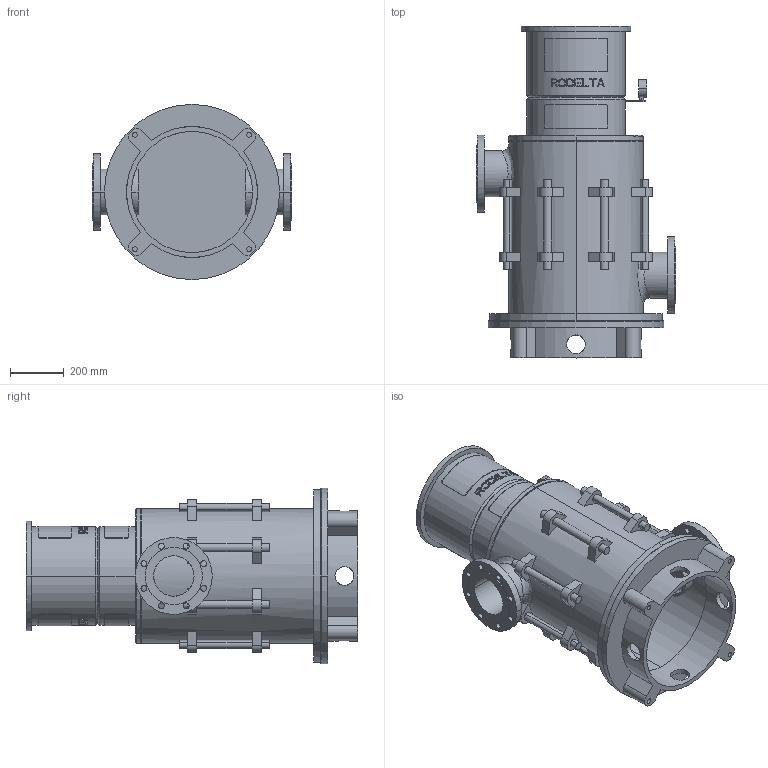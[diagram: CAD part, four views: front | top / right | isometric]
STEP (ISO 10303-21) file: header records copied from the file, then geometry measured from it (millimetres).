
FILE_DESCRIPTION((''),'2;1');
FILE_NAME('LS6_2TR_0GR_TOT_30KW','2023-08-15T',('Lyritlocal'),(''),'PRO/ENGINEER BY PARAMETRIC TECHNOLOGY CORPORATION, 2016360','PRO/ENGINEER BY PARAMETRIC TECHNOLOGY CORPORATION, 2016360','');
FILE_SCHEMA(('CONFIG_CONTROL_DESIGN'));
Length unit declared in the file: millimetre
Products named in the file (1): LS6_2TR_0GR_TOT_30KW
Bounding box: 740 x 1231 x 650 mm (x, y, z)
Volume: 40270217 mm3; surface area: 5291323.5 mm2
Topology: 3 solids, 7 shells, 684 faces, 1767 edges, 1174 vertices
Faces by surface type: plane 422, cylinder 242, cone 12, bspline 8
Entity records: 22575 total; most frequent: CARTESIAN_POINT 5963, ORIENTED_EDGE 3518, DIRECTION 3273, EDGE_CURVE 1767, AXIS2_PLACEMENT_3D 1237, VERTEX_POINT 1174, EDGE_LOOP 829, VECTOR 799
